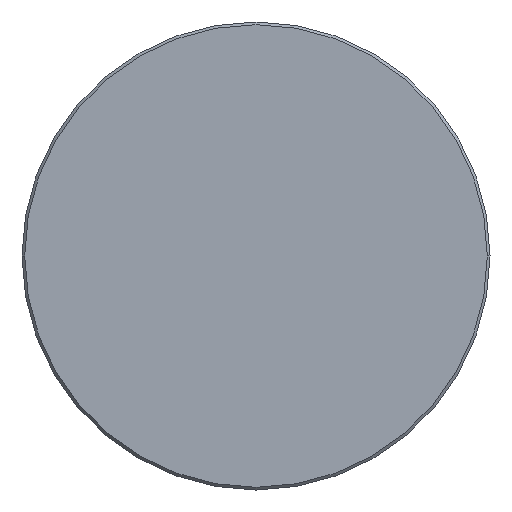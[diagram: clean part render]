
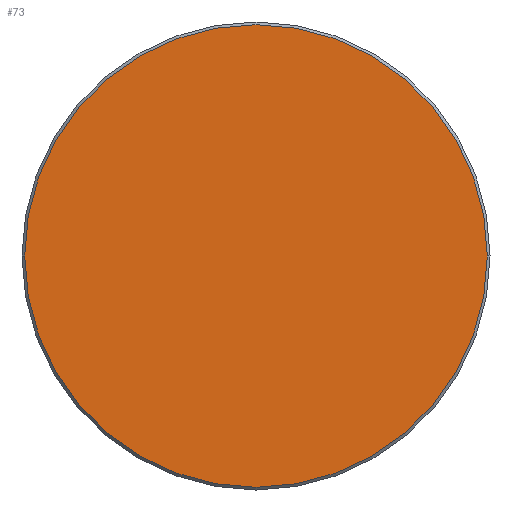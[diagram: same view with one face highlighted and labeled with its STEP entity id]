
A CAD part, left-side view. The second image highlights one B-rep face of the part: STEP entity #73.
In plain terms, the highlighted planar face has unit normal (-1, 0, 0).
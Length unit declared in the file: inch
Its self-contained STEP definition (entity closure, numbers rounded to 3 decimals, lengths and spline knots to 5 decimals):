
#9 = FACE_OUTER_BOUND ( 'NONE', #26, .T. ) ;
#26 = EDGE_LOOP ( 'NONE', ( #369, #323 ) ) ;
#35 = DIRECTION ( 'NONE',  ( -1., 0., 0. ) ) ;
#52 = DIRECTION ( 'NONE',  ( -1., 0., 0. ) ) ;
#64 = DIRECTION ( 'NONE',  ( -1., 0., 0. ) ) ;
#73 = ADVANCED_FACE ( 'NONE', ( #9 ), #86, .T. ) ;
#74 = CIRCLE ( 'NONE', #302, 0.33975 ) ;
#86 = PLANE ( 'NONE',  #206 ) ;
#139 = EDGE_CURVE ( 'NONE', #360, #319, #74, .T. ) ;
#158 = CARTESIAN_POINT ( 'NONE',  ( 0., 0.33975, 0. ) ) ;
#206 = AXIS2_PLACEMENT_3D ( 'NONE', #299, #52, #330 ) ;
#246 = CARTESIAN_POINT ( 'NONE',  ( 0., 0., 0. ) ) ;
#249 = DIRECTION ( 'NONE',  ( 0., -1., 0. ) ) ;
#273 = CIRCLE ( 'NONE', #357, 0.33975 ) ;
#292 = EDGE_CURVE ( 'NONE', #319, #360, #273, .T. ) ;
#299 = CARTESIAN_POINT ( 'NONE',  ( 0., 0., 0. ) ) ;
#302 = AXIS2_PLACEMENT_3D ( 'NONE', #351, #64, #354 ) ;
#319 = VERTEX_POINT ( 'NONE', #158 ) ;
#323 = ORIENTED_EDGE ( 'NONE', *, *, #139, .T. ) ;
#330 = DIRECTION ( 'NONE',  ( 0., -1., 0. ) ) ;
#351 = CARTESIAN_POINT ( 'NONE',  ( 0., 0., 0. ) ) ;
#354 = DIRECTION ( 'NONE',  ( 0., -1., 0. ) ) ;
#357 = AXIS2_PLACEMENT_3D ( 'NONE', #246, #35, #249 ) ;
#360 = VERTEX_POINT ( 'NONE', #361 ) ;
#361 = CARTESIAN_POINT ( 'NONE',  ( 0., -0.33975, 0. ) ) ;
#369 = ORIENTED_EDGE ( 'NONE', *, *, #292, .T. ) ;
